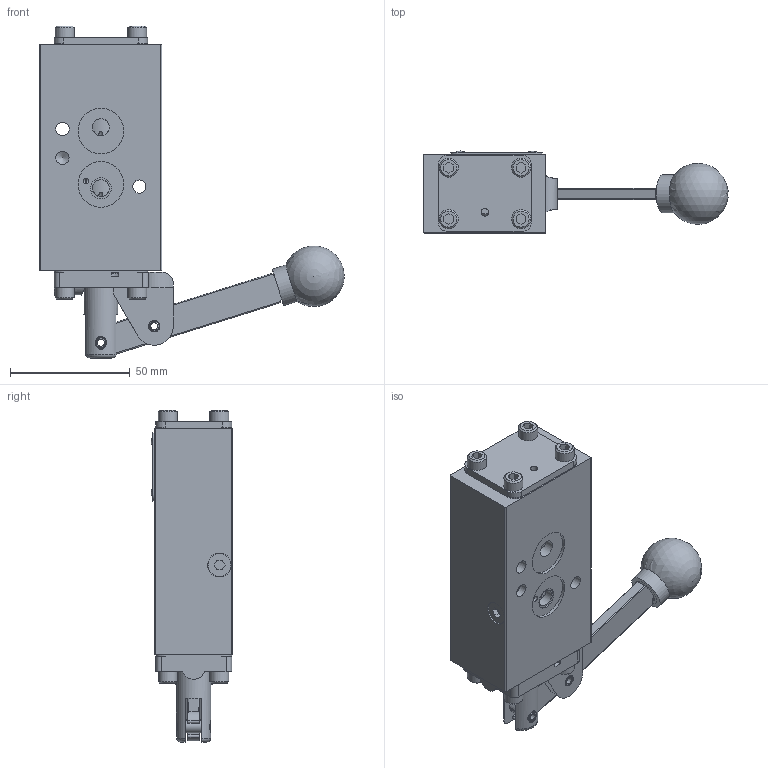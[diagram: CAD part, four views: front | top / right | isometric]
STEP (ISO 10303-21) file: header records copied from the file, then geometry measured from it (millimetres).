
FILE_DESCRIPTION(/* description */ (''),/* implementation_level */ '2;1');
FILE_NAME(/* name */ 'D:\Website Files\stp\Valves\Lever\HE\NHE2RT.stp',/* time_stamp */ '2015-09-12T18:16:14-04:00',/* author */ ('RMcKenna'),/* organization */ (''),/* preprocessor_version */ 'ST-DEVELOPER v15.6',/* originating_system */ 'Autodesk Inventor 2015',/* authorisation */ '');
FILE_SCHEMA (('AUTOMOTIVE_DESIGN { 1 0 10303 214 3 1 1 }'));
Length unit declared in the file: centimetre
Products named in the file (1): Part16
Bounding box: 126.73 x 34.06 x 138.33 mm (x, y, z)
Volume: 165083.4 mm3; surface area: 56215.2 mm2
Topology: 1 solids, 27 shells, 1061 faces, 2586 edges, 1655 vertices
Faces by surface type: plane 443, cone 234, cylinder 214, torus 89, bspline 78, sphere 3
Full cylindrical faces by diameter (mm): 2.07 x2, 2.261 x2, 2.388 x2, 2.778 x2, 3.048 x1, 3.175 x4, 3.683 x8, 4.75 x2, 4.763 x2, 4.826 x8, 4.978 x4, 5.055 x1, 5.156 x8, 5.512 x1, 5.556 x2, 6.731 x1, 7.087 x1, 7.137 x3, 7.144 x4, 7.798 x1, 7.938 x8, 8.153 x1, 8.731 x2, 9.525 x1, 9.906 x1, 9.922 x1, 11.113 x4, 11.303 x2, 14.275 x1, 14.986 x1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
Entity records: 33757 total; most frequent: CARTESIAN_POINT 9398, DIRECTION 4621, ORIENTED_EDGE 4618, EDGE_CURVE 2308, AXIS2_PLACEMENT_3D 1770, VERTEX_POINT 1572, EDGE_LOOP 1389, LINE 1081
